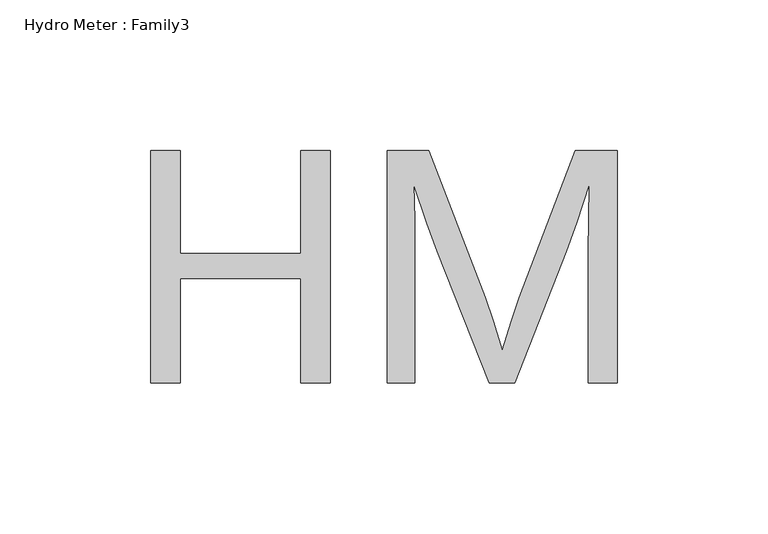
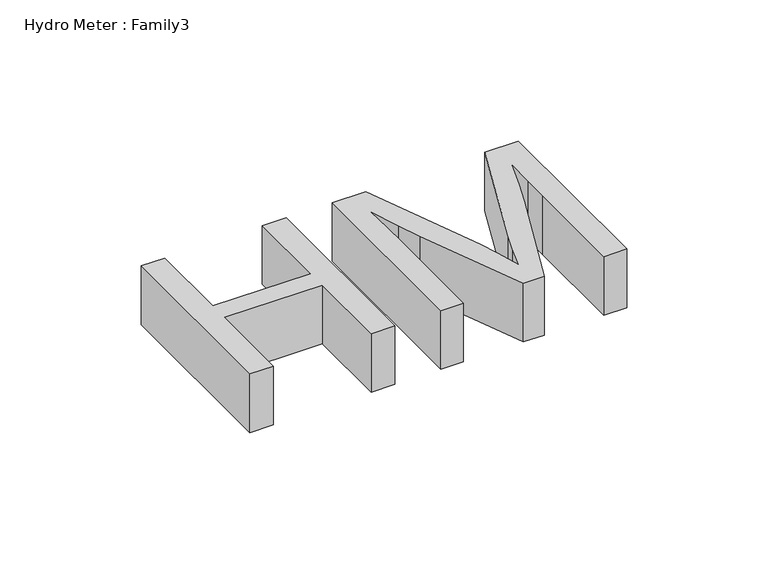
"""IFC4 building model written with IfcOpenShell, lengths in millimetres: proxy geometry, Hydro Meter : Family3."""

from ifc_helpers import new_model, si_unit, origin, origin_with_axes, place, context, project, spatial, polyline, outline, extrude, source, transform, mapped, element, save


def hydro_meter_family3_463d816c(model_context):
    return source(origin(), model_context, "Body", "SweptSolid", [
        extrude(outline(polyline([(106.6167911, 85.7550829), (106.6167911, 162.7591072), (116.3409161, 162.7591072), (116.3409161, 128.6753587), (156.341982, 128.6753587), (156.341982, 162.7591072), (166.066107, 162.7591072), (166.066107, 85.7550829), (156.341982, 85.7550829), (156.341982, 120.4108387), (116.3409161, 120.4108387), (116.3409161, 85.7550829), (106.6167911, 85.7550829)])), origin_with_axes(), (0.0, 0.0, 1.0), 25.4),
        extrude(outline(polyline([(184.8831765, 85.7550829), (184.8831765, 162.7591072), (198.6902505, 162.7591072), (217.4678712, 114.1187578), (220.1306641, 106.2980366), (223.0893228, 96.5640494), (226.0183949, 106.1698281), (228.7304987, 114.1187578), (247.2517023, 162.7591072), (261.1179495, 162.7591072), (261.1179495, 85.7550829), (251.5516197, 85.7550829), (251.5516197, 129.4051612), (251.6502416, 139.7111558), (251.9066587, 151.7726212), (247.6757768, 139.0010777), (244.2338704, 129.4051612), (227.1919962, 85.7550829), (218.7499567, 85.7550829), (201.4516653, 129.4051612), (198.0985188, 138.764385), (193.7788771, 151.614826), (194.0057076, 139.9971594), (194.1339161, 129.4051612), (194.1339161, 85.7550829), (184.8831765, 85.7550829)])), origin_with_axes(), (0.0, 0.0, 1.0), 25.4),
    ])


if __name__ == "__main__":
    model = new_model("IFC4")
    model_context = context("Model", 3, world=origin())
    ifc_project = project(units=[si_unit("LENGTHUNIT", "METRE", prefix="MILLI")], contexts=[model_context])
    site = spatial("IfcSite", under=ifc_project)
    building = spatial("IfcBuilding", under=site)
    placement = place(None, origin())
    hydro_meter_family3_shape = hydro_meter_family3_463d816c(model_context)
    element("IfcBuildingElementProxy", 1, Name="Hydro Meter : Family3", ObjectType="Hydro Meter : Family3", at=placement, inside=building, context=model_context, shape_type="MappedRepresentation", body=[
        mapped(hydro_meter_family3_shape, transform((0.0, 0.0, 0.0), x_axis=(1.0, 0.0, 0.0), y_axis=(0.0, 1.0, 0.0), z_axis=(0.0, 0.0, 1.0))),
    ])
    save(model, "model.ifc")
